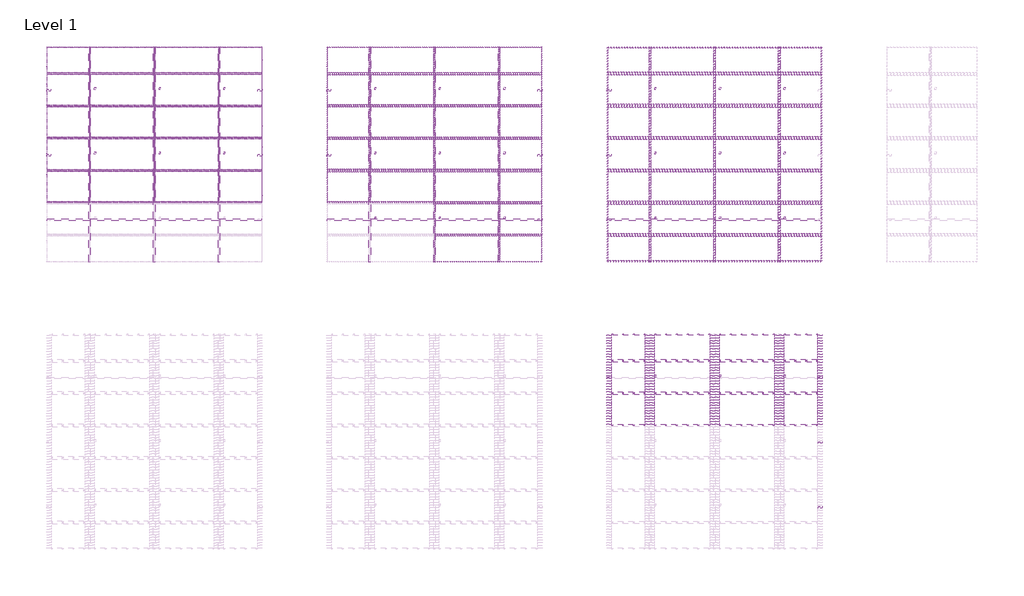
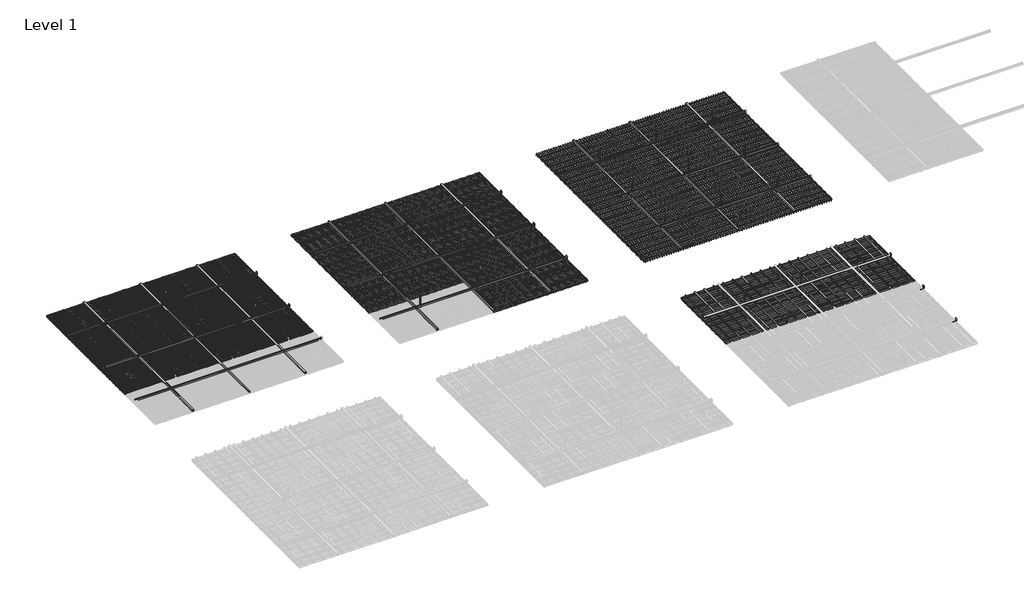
# One storey, part 28 of 32: 139 proxies.
"""IFC4 building model written with IfcOpenShell, lengths in millimetres."""

from ifc_helpers import new_model, si_unit, origin, place, context, project, spatial, transform, mapped, element, save
from components import generic_models_f4ce44e0, generic_models_ed86a27e, generic_models_dcda3682, generic_models_90ec37a6, generic_models_4fd2051e, generic_models_a47dbadd, generic_models_69343ad7, generic_models_9f873a07, generic_models_7333d896, generic_models_9e2ca137, generic_models_001e4b3a, generic_models_ea39767a, generic_models_2c5692c7, generic_models_a736a9a8, generic_models_9611325c, generic_models_1183863c, generic_models_8e35020f, generic_models_ab20c78c, generic_models_489bbaa8, generic_models_f6474ad0, generic_models_28f6a95c, generic_models_9e18e937

model = new_model("IFC4")

# Units and contexts
model_context = context("Model", 3, world=origin())
ifc_project = project(units=[si_unit("LENGTHUNIT", "METRE", prefix="MILLI")], contexts=[model_context])

# Site, building, storey
site = spatial("IfcSite", under=ifc_project)
building = spatial("IfcBuilding", under=site)
storey = spatial("IfcBuildingStorey", under=building, Name="Level 1", Elevation=0.0)

# Proxies
placement = place(None, origin())
generic_models_shape = generic_models_f4ce44e0(model_context)
element("IfcBuildingElementProxy", 1, Name="durlum_U94 : durlum_U94", ObjectType="durlum_U94 : durlum_U94", at=placement, inside=storey, context=model_context, shape_type="MappedRepresentation", body=[
    mapped(generic_models_shape, transform((35917.1423778, 9073.8007196, 3724.0), x_axis=(0.0, 1.0, 0.0), y_axis=(-1.0, 0.0, 0.0), z_axis=(0.0, 0.0, 1.0))),
])
element("IfcBuildingElementProxy", 2, Name="durlum_U94 : durlum_U94", ObjectType="durlum_U94 : durlum_U94", at=placement, inside=storey, context=model_context, shape_type="MappedRepresentation", body=[
    mapped(generic_models_shape, transform((34717.1423778, 9073.8007196, 3724.0), x_axis=(0.0, 1.0, 0.0), y_axis=(-1.0, 0.0, 0.0), z_axis=(0.0, 0.0, 1.0))),
])
element("IfcBuildingElementProxy", 3, Name="durlum_U94 : durlum_U94", ObjectType="durlum_U94 : durlum_U94", at=placement, inside=storey, context=model_context, shape_type="MappedRepresentation", body=[
    mapped(generic_models_shape, transform((37117.1423778, 9073.8007196, 3724.0), x_axis=(0.0, 1.0, 0.0), y_axis=(-1.0, 0.0, 0.0), z_axis=(0.0, 0.0, 1.0))),
])
element("IfcBuildingElementProxy", 4, Name="durlum_U94 : durlum_U94", ObjectType="durlum_U94 : durlum_U94", at=placement, inside=storey, context=model_context, shape_type="MappedRepresentation", body=[
    mapped(generic_models_shape, transform((41117.1423778, 9073.8007196, 3724.0), x_axis=(0.0, 1.0, 0.0), y_axis=(-1.0, 0.0, 0.0), z_axis=(0.0, 0.0, 1.0))),
])
element("IfcBuildingElementProxy", 5, Name="durlum_U94 : durlum_U94", ObjectType="durlum_U94 : durlum_U94", at=placement, inside=storey, context=model_context, shape_type="MappedRepresentation", body=[
    mapped(generic_models_shape, transform((39917.1423778, 9073.8007196, 3724.0), x_axis=(0.0, 1.0, 0.0), y_axis=(-1.0, 0.0, 0.0), z_axis=(0.0, 0.0, 1.0))),
])
element("IfcBuildingElementProxy", 6, Name="durlum_U94 : durlum_U94", ObjectType="durlum_U94 : durlum_U94", at=placement, inside=storey, context=model_context, shape_type="MappedRepresentation", body=[
    mapped(generic_models_shape, transform((42317.1423778, 9073.8007196, 3724.0), x_axis=(0.0, 1.0, 0.0), y_axis=(-1.0, 0.0, 0.0), z_axis=(0.0, 0.0, 1.0))),
])
element("IfcBuildingElementProxy", 7, Name="durlum_U94 : durlum_U94", ObjectType="durlum_U94 : durlum_U94", at=placement, inside=storey, context=model_context, shape_type="MappedRepresentation", body=[
    mapped(generic_models_shape, transform((46317.1423778, 9073.8007196, 3724.0), x_axis=(0.0, 1.0, 0.0), y_axis=(-1.0, 0.0, 0.0), z_axis=(0.0, 0.0, 1.0))),
])
element("IfcBuildingElementProxy", 8, Name="durlum_U94 : durlum_U94", ObjectType="durlum_U94 : durlum_U94", at=placement, inside=storey, context=model_context, shape_type="MappedRepresentation", body=[
    mapped(generic_models_shape, transform((45117.1423778, 9073.8007196, 3724.0), x_axis=(0.0, 1.0, 0.0), y_axis=(-1.0, 0.0, 0.0), z_axis=(0.0, 0.0, 1.0))),
])
element("IfcBuildingElementProxy", 9, Name="durlum_U94 : durlum_U94", ObjectType="durlum_U94 : durlum_U94", at=placement, inside=storey, context=model_context, shape_type="MappedRepresentation", body=[
    mapped(generic_models_shape, transform((47517.1423778, 9073.8007196, 3724.0), x_axis=(0.0, 1.0, 0.0), y_axis=(-1.0, 0.0, 0.0), z_axis=(0.0, 0.0, 1.0))),
])
generic_models_2_shape = generic_models_ed86a27e(model_context)
element("IfcBuildingElementProxy", 10, Name="durlum_QUADRA : durlum_QUADRA", ObjectType="durlum_QUADRA : durlum_QUADRA", at=placement, inside=storey, context=model_context, shape_type="MappedRepresentation", body=[
    mapped(generic_models_2_shape, transform((35917.1423778, 9073.8007196, 0.0), x_axis=(1.0, 0.0, 0.0), y_axis=(0.0, 1.0, 0.0), z_axis=(0.0, 0.0, 1.0))),
])
generic_models_3_shape = generic_models_dcda3682(model_context)
element("IfcBuildingElementProxy", 11, Name="durlum_QUADRA_panel : durlum_QUADRA_length_cut", ObjectType="durlum_QUADRA_panel : durlum_QUADRA_length_cut", at=placement, inside=storey, context=model_context, shape_type="MappedRepresentation", body=[
    mapped(generic_models_3_shape, transform((34316.8923778, 9673.8007196, 3700.0), x_axis=(1.0, 0.0, 0.0), y_axis=(0.0, 1.0, 0.0), z_axis=(0.0, 0.0, 1.0))),
])
element("IfcBuildingElementProxy", 12, Name="durlum_QUADRA_panel : durlum_QUADRA_length_cut", ObjectType="durlum_QUADRA_panel : durlum_QUADRA_length_cut", at=placement, inside=storey, context=model_context, shape_type="MappedRepresentation", body=[
    mapped(generic_models_3_shape, transform((34316.8923778, 9073.8007196, 3700.0), x_axis=(1.0, 0.0, 0.0), y_axis=(0.0, 1.0, 0.0), z_axis=(0.0, 0.0, 1.0))),
])
element("IfcBuildingElementProxy", 13, Name="durlum_QUADRA_panel : durlum_QUADRA_length_cut", ObjectType="durlum_QUADRA_panel : durlum_QUADRA_length_cut", at=placement, inside=storey, context=model_context, shape_type="MappedRepresentation", body=[
    mapped(generic_models_3_shape, transform((34316.8923778, 8473.8007196, 3700.0), x_axis=(1.0, 0.0, 0.0), y_axis=(0.0, 1.0, 0.0), z_axis=(0.0, 0.0, 1.0))),
])
element("IfcBuildingElementProxy", 14, Name="durlum_QUADRA_panel : durlum_QUADRA_length_cut", ObjectType="durlum_QUADRA_panel : durlum_QUADRA_length_cut", at=placement, inside=storey, context=model_context, shape_type="MappedRepresentation", body=[
    mapped(generic_models_3_shape, transform((37517.3923778, 9673.8007196, 3700.0), x_axis=(1.0, 0.0, 0.0), y_axis=(0.0, 1.0, 0.0), z_axis=(0.0, 0.0, 1.0))),
])
element("IfcBuildingElementProxy", 15, Name="durlum_QUADRA_panel : durlum_QUADRA_length_cut", ObjectType="durlum_QUADRA_panel : durlum_QUADRA_length_cut", at=placement, inside=storey, context=model_context, shape_type="MappedRepresentation", body=[
    mapped(generic_models_3_shape, transform((37517.3923778, 9073.8007196, 3700.0), x_axis=(1.0, 0.0, 0.0), y_axis=(0.0, 1.0, 0.0), z_axis=(0.0, 0.0, 1.0))),
])
element("IfcBuildingElementProxy", 16, Name="durlum_QUADRA_panel : durlum_QUADRA_length_cut", ObjectType="durlum_QUADRA_panel : durlum_QUADRA_length_cut", at=placement, inside=storey, context=model_context, shape_type="MappedRepresentation", body=[
    mapped(generic_models_3_shape, transform((37517.3923778, 8473.8007196, 3700.0), x_axis=(1.0, 0.0, 0.0), y_axis=(0.0, 1.0, 0.0), z_axis=(0.0, 0.0, 1.0))),
])
element("IfcBuildingElementProxy", 17, Name="durlum_QUADRA_panel : durlum_QUADRA_length_cut", ObjectType="durlum_QUADRA_panel : durlum_QUADRA_length_cut", at=placement, inside=storey, context=model_context, shape_type="MappedRepresentation", body=[
    mapped(generic_models_3_shape, transform((37517.3923778, 10273.8007196, 3700.0), x_axis=(1.0, 0.0, 0.0), y_axis=(0.0, 1.0, 0.0), z_axis=(0.0, 0.0, 1.0))),
])
element("IfcBuildingElementProxy", 18, Name="durlum_QUADRA_panel : durlum_QUADRA_length_cut", ObjectType="durlum_QUADRA_panel : durlum_QUADRA_length_cut", at=placement, inside=storey, context=model_context, shape_type="MappedRepresentation", body=[
    mapped(generic_models_3_shape, transform((34316.8923778, 10273.8007196, 3700.0), x_axis=(1.0, 0.0, 0.0), y_axis=(0.0, 1.0, 0.0), z_axis=(0.0, 0.0, 1.0))),
])
generic_models_4_shape = generic_models_90ec37a6(model_context)
element("IfcBuildingElementProxy", 19, Name="durlum_QUADRA_panel : durlum_QUADRA_width_cut", ObjectType="durlum_QUADRA_panel : durlum_QUADRA_width_cut", at=placement, inside=storey, context=model_context, shape_type="MappedRepresentation", body=[
    mapped(generic_models_4_shape, transform((35317.1423778, 10823.8007196, 3700.0), x_axis=(1.0, 0.0, 0.0), y_axis=(0.0, 1.0, 0.0), z_axis=(0.0, 0.0, 1.0))),
])
element("IfcBuildingElementProxy", 20, Name="durlum_QUADRA_panel : durlum_QUADRA_width_cut", ObjectType="durlum_QUADRA_panel : durlum_QUADRA_width_cut", at=placement, inside=storey, context=model_context, shape_type="MappedRepresentation", body=[
    mapped(generic_models_4_shape, transform((36517.1423778, 10823.8007196, 3700.0), x_axis=(1.0, 0.0, 0.0), y_axis=(0.0, 1.0, 0.0), z_axis=(0.0, 0.0, 1.0))),
])
generic_models_5_shape = generic_models_4fd2051e(model_context)
element("IfcBuildingElementProxy", 21, Name="durlum_QUADRA_panel : durlum_QUADRA", ObjectType="durlum_QUADRA_panel : durlum_QUADRA", at=placement, inside=storey, context=model_context, shape_type="MappedRepresentation", body=[
    mapped(generic_models_5_shape, transform((35317.1423778, 8473.8007196, 3700.0), x_axis=(1.0, 0.0, 0.0), y_axis=(0.0, 1.0, 0.0), z_axis=(0.0, 0.0, 1.0))),
])
element("IfcBuildingElementProxy", 22, Name="durlum_QUADRA_panel : durlum_QUADRA", ObjectType="durlum_QUADRA_panel : durlum_QUADRA", at=placement, inside=storey, context=model_context, shape_type="MappedRepresentation", body=[
    mapped(generic_models_5_shape, transform((36517.1423778, 8473.8007196, 3700.0), x_axis=(1.0, 0.0, 0.0), y_axis=(0.0, 1.0, 0.0), z_axis=(0.0, 0.0, 1.0))),
])
element("IfcBuildingElementProxy", 23, Name="durlum_QUADRA_panel : durlum_QUADRA", ObjectType="durlum_QUADRA_panel : durlum_QUADRA", at=placement, inside=storey, context=model_context, shape_type="MappedRepresentation", body=[
    mapped(generic_models_5_shape, transform((35317.1423778, 9073.8007196, 3700.0), x_axis=(1.0, 0.0, 0.0), y_axis=(0.0, 1.0, 0.0), z_axis=(0.0, 0.0, 1.0))),
])
element("IfcBuildingElementProxy", 24, Name="durlum_QUADRA_panel : durlum_QUADRA", ObjectType="durlum_QUADRA_panel : durlum_QUADRA", at=placement, inside=storey, context=model_context, shape_type="MappedRepresentation", body=[
    mapped(generic_models_5_shape, transform((36517.1423778, 9073.8007196, 3700.0), x_axis=(1.0, 0.0, 0.0), y_axis=(0.0, 1.0, 0.0), z_axis=(0.0, 0.0, 1.0))),
])
element("IfcBuildingElementProxy", 25, Name="durlum_QUADRA_panel : durlum_QUADRA", ObjectType="durlum_QUADRA_panel : durlum_QUADRA", at=placement, inside=storey, context=model_context, shape_type="MappedRepresentation", body=[
    mapped(generic_models_5_shape, transform((35317.1423778, 9673.8007196, 3700.0), x_axis=(1.0, 0.0, 0.0), y_axis=(0.0, 1.0, 0.0), z_axis=(0.0, 0.0, 1.0))),
])
element("IfcBuildingElementProxy", 26, Name="durlum_QUADRA_panel : durlum_QUADRA", ObjectType="durlum_QUADRA_panel : durlum_QUADRA", at=placement, inside=storey, context=model_context, shape_type="MappedRepresentation", body=[
    mapped(generic_models_5_shape, transform((36517.1423778, 9673.8007196, 3700.0), x_axis=(1.0, 0.0, 0.0), y_axis=(0.0, 1.0, 0.0), z_axis=(0.0, 0.0, 1.0))),
])
element("IfcBuildingElementProxy", 27, Name="durlum_QUADRA_panel : durlum_QUADRA", ObjectType="durlum_QUADRA_panel : durlum_QUADRA", at=placement, inside=storey, context=model_context, shape_type="MappedRepresentation", body=[
    mapped(generic_models_5_shape, transform((35317.1423778, 10273.8007196, 3700.0), x_axis=(1.0, 0.0, 0.0), y_axis=(0.0, 1.0, 0.0), z_axis=(0.0, 0.0, 1.0))),
])
element("IfcBuildingElementProxy", 28, Name="durlum_QUADRA_panel : durlum_QUADRA", ObjectType="durlum_QUADRA_panel : durlum_QUADRA", at=placement, inside=storey, context=model_context, shape_type="MappedRepresentation", body=[
    mapped(generic_models_5_shape, transform((36517.1423778, 10273.8007196, 3700.0), x_axis=(1.0, 0.0, 0.0), y_axis=(0.0, 1.0, 0.0), z_axis=(0.0, 0.0, 1.0))),
])
generic_models_6_shape = generic_models_a47dbadd(model_context)
element("IfcBuildingElementProxy", 29, Name="durlum_QUADRA_panel : durlum_QUADRA_corner_cut", ObjectType="durlum_QUADRA_panel : durlum_QUADRA_corner_cut", at=placement, inside=storey, context=model_context, shape_type="MappedRepresentation", body=[
    mapped(generic_models_6_shape, transform((37517.3923778, 10823.8007196, 3700.0), x_axis=(1.0, 0.0, 0.0), y_axis=(0.0, 1.0, 0.0), z_axis=(0.0, 0.0, 1.0))),
])
element("IfcBuildingElementProxy", 30, Name="durlum_QUADRA_panel : durlum_QUADRA_corner_cut", ObjectType="durlum_QUADRA_panel : durlum_QUADRA_corner_cut", at=placement, inside=storey, context=model_context, shape_type="MappedRepresentation", body=[
    mapped(generic_models_6_shape, transform((34316.8923778, 10823.8007196, 3700.0), x_axis=(1.0, 0.0, 0.0), y_axis=(0.0, 1.0, 0.0), z_axis=(0.0, 0.0, 1.0))),
])
generic_models_7_shape = generic_models_69343ad7(model_context)
element("IfcBuildingElementProxy", 31, Name="durlum_STARLAM_panel : durlum_STARLAM_15", ObjectType="durlum_STARLAM_panel : durlum_STARLAM_15", at=placement, inside=storey, context=model_context, shape_type="MappedRepresentation", body=[
    mapped(generic_models_7_shape, transform((45717.1423778, 4338.9976834, 3700.0), x_axis=(1.0, 0.0, 0.0), y_axis=(0.0, 1.0, 0.0), z_axis=(0.0, 0.0, 1.0))),
])
element("IfcBuildingElementProxy", 32, Name="durlum_STARLAM_panel : durlum_STARLAM_15", ObjectType="durlum_STARLAM_panel : durlum_STARLAM_15", at=placement, inside=storey, context=model_context, shape_type="MappedRepresentation", body=[
    mapped(generic_models_7_shape, transform((46917.1423778, 4338.9976834, 3700.0), x_axis=(1.0, 0.0, 0.0), y_axis=(0.0, 1.0, 0.0), z_axis=(0.0, 0.0, 1.0))),
])
element("IfcBuildingElementProxy", 33, Name="durlum_STARLAM_panel : durlum_STARLAM_15", ObjectType="durlum_STARLAM_panel : durlum_STARLAM_15", at=placement, inside=storey, context=model_context, shape_type="MappedRepresentation", body=[
    mapped(generic_models_7_shape, transform((45717.1423778, 4938.9976834, 3700.0), x_axis=(1.0, 0.0, 0.0), y_axis=(0.0, 1.0, 0.0), z_axis=(0.0, 0.0, 1.0))),
])
element("IfcBuildingElementProxy", 34, Name="durlum_STARLAM_panel : durlum_STARLAM_15", ObjectType="durlum_STARLAM_panel : durlum_STARLAM_15", at=placement, inside=storey, context=model_context, shape_type="MappedRepresentation", body=[
    mapped(generic_models_7_shape, transform((46917.1423778, 4938.9976834, 3700.0), x_axis=(1.0, 0.0, 0.0), y_axis=(0.0, 1.0, 0.0), z_axis=(0.0, 0.0, 1.0))),
])
generic_models_8_shape = generic_models_9f873a07(model_context)
element("IfcBuildingElementProxy", 35, Name="durlum_STARLAM_panel : durlum_STARLAM_15_length_cut", ObjectType="durlum_STARLAM_panel : durlum_STARLAM_15_length_cut", at=placement, inside=storey, context=model_context, shape_type="MappedRepresentation", body=[
    mapped(generic_models_8_shape, transform((47917.2673778, 4338.9976834, 3700.0), x_axis=(1.0, 0.0, 0.0), y_axis=(0.0, 1.0, 0.0), z_axis=(0.0, 0.0, 1.0))),
])
element("IfcBuildingElementProxy", 36, Name="durlum_STARLAM_panel : durlum_STARLAM_15_length_cut", ObjectType="durlum_STARLAM_panel : durlum_STARLAM_15_length_cut", at=placement, inside=storey, context=model_context, shape_type="MappedRepresentation", body=[
    mapped(generic_models_8_shape, transform((44717.0173778, 4338.9976834, 3700.0), x_axis=(1.0, 0.0, 0.0), y_axis=(0.0, 1.0, 0.0), z_axis=(0.0, 0.0, 1.0))),
])
element("IfcBuildingElementProxy", 37, Name="durlum_STARLAM_panel : durlum_STARLAM_15_length_cut", ObjectType="durlum_STARLAM_panel : durlum_STARLAM_15_length_cut", at=placement, inside=storey, context=model_context, shape_type="MappedRepresentation", body=[
    mapped(generic_models_8_shape, transform((44717.0173778, 4938.9976834, 3700.0), x_axis=(1.0, 0.0, 0.0), y_axis=(0.0, 1.0, 0.0), z_axis=(0.0, 0.0, 1.0))),
])
element("IfcBuildingElementProxy", 38, Name="durlum_STARLAM_panel : durlum_STARLAM_15_length_cut", ObjectType="durlum_STARLAM_panel : durlum_STARLAM_15_length_cut", at=placement, inside=storey, context=model_context, shape_type="MappedRepresentation", body=[
    mapped(generic_models_8_shape, transform((47917.2673778, 4938.9976834, 3700.0), x_axis=(1.0, 0.0, 0.0), y_axis=(0.0, 1.0, 0.0), z_axis=(0.0, 0.0, 1.0))),
])
generic_models_9_shape = generic_models_7333d896(model_context)
element("IfcBuildingElementProxy", 39, Name="durlum_STARLAM_panel : durlum_STARLAM_15_width_cut", ObjectType="durlum_STARLAM_panel : durlum_STARLAM_15_width_cut", at=placement, inside=storey, context=model_context, shape_type="MappedRepresentation", body=[
    mapped(generic_models_9_shape, transform((45717.1423778, 5488.9976834, 3700.0), x_axis=(1.0, 0.0, 0.0), y_axis=(0.0, 1.0, 0.0), z_axis=(0.0, 0.0, 1.0))),
])
element("IfcBuildingElementProxy", 40, Name="durlum_STARLAM_panel : durlum_STARLAM_15_width_cut", ObjectType="durlum_STARLAM_panel : durlum_STARLAM_15_width_cut", at=placement, inside=storey, context=model_context, shape_type="MappedRepresentation", body=[
    mapped(generic_models_9_shape, transform((46917.1423778, 5488.9976834, 3700.0), x_axis=(1.0, 0.0, 0.0), y_axis=(0.0, 1.0, 0.0), z_axis=(0.0, 0.0, 1.0))),
])
generic_models_10_shape = generic_models_9e2ca137(model_context)
element("IfcBuildingElementProxy", 41, Name="durlum_STARLAM_panel : durlum_STARLAM_15_corner_cut", ObjectType="durlum_STARLAM_panel : durlum_STARLAM_15_corner_cut", at=placement, inside=storey, context=model_context, shape_type="MappedRepresentation", body=[
    mapped(generic_models_10_shape, transform((47917.2673778, 5488.9976834, 3700.0), x_axis=(1.0, 0.0, 0.0), y_axis=(0.0, 1.0, 0.0), z_axis=(0.0, 0.0, 1.0))),
])
element("IfcBuildingElementProxy", 42, Name="durlum_STARLAM_panel : durlum_STARLAM_15_corner_cut", ObjectType="durlum_STARLAM_panel : durlum_STARLAM_15_corner_cut", at=placement, inside=storey, context=model_context, shape_type="MappedRepresentation", body=[
    mapped(generic_models_10_shape, transform((44717.0173778, 5488.9976834, 3700.0), x_axis=(1.0, 0.0, 0.0), y_axis=(0.0, 1.0, 0.0), z_axis=(0.0, 0.0, 1.0))),
])
element("IfcBuildingElementProxy", 43, Name="durlum_QUADRA : durlum_QUADRA", ObjectType="durlum_QUADRA : durlum_QUADRA", at=placement, inside=storey, context=model_context, shape_type="MappedRepresentation", body=[
    mapped(generic_models_2_shape, transform((41117.1423778, 9073.8007196, 0.0), x_axis=(1.0, 0.0, 0.0), y_axis=(0.0, 1.0, 0.0), z_axis=(0.0, 0.0, 1.0))),
])
generic_models_11_shape = generic_models_001e4b3a(model_context)
element("IfcBuildingElementProxy", 44, Name="durlum_QUADRA_panel : durlum_QUADRA_length_cut", ObjectType="durlum_QUADRA_panel : durlum_QUADRA_length_cut", at=placement, inside=storey, context=model_context, shape_type="MappedRepresentation", body=[
    mapped(generic_models_11_shape, transform((39516.8923778, 9673.8007196, 3700.0), x_axis=(1.0, 0.0, 0.0), y_axis=(0.0, 1.0, 0.0), z_axis=(0.0, 0.0, 1.0))),
])
element("IfcBuildingElementProxy", 45, Name="durlum_QUADRA_panel : durlum_QUADRA_length_cut", ObjectType="durlum_QUADRA_panel : durlum_QUADRA_length_cut", at=placement, inside=storey, context=model_context, shape_type="MappedRepresentation", body=[
    mapped(generic_models_11_shape, transform((39516.8923778, 9073.8007196, 3700.0), x_axis=(1.0, 0.0, 0.0), y_axis=(0.0, 1.0, 0.0), z_axis=(0.0, 0.0, 1.0))),
])
element("IfcBuildingElementProxy", 46, Name="durlum_QUADRA_panel : durlum_QUADRA_length_cut", ObjectType="durlum_QUADRA_panel : durlum_QUADRA_length_cut", at=placement, inside=storey, context=model_context, shape_type="MappedRepresentation", body=[
    mapped(generic_models_11_shape, transform((39516.8923778, 8473.8007196, 3700.0), x_axis=(1.0, 0.0, 0.0), y_axis=(0.0, 1.0, 0.0), z_axis=(0.0, 0.0, 1.0))),
])
element("IfcBuildingElementProxy", 47, Name="durlum_QUADRA_panel : durlum_QUADRA_length_cut", ObjectType="durlum_QUADRA_panel : durlum_QUADRA_length_cut", at=placement, inside=storey, context=model_context, shape_type="MappedRepresentation", body=[
    mapped(generic_models_11_shape, transform((42717.3923778, 9673.8007196, 3700.0), x_axis=(1.0, 0.0, 0.0), y_axis=(0.0, 1.0, 0.0), z_axis=(0.0, 0.0, 1.0))),
])
element("IfcBuildingElementProxy", 48, Name="durlum_QUADRA_panel : durlum_QUADRA_length_cut", ObjectType="durlum_QUADRA_panel : durlum_QUADRA_length_cut", at=placement, inside=storey, context=model_context, shape_type="MappedRepresentation", body=[
    mapped(generic_models_11_shape, transform((42717.3923778, 9073.8007196, 3700.0), x_axis=(1.0, 0.0, 0.0), y_axis=(0.0, 1.0, 0.0), z_axis=(0.0, 0.0, 1.0))),
])
element("IfcBuildingElementProxy", 49, Name="durlum_QUADRA_panel : durlum_QUADRA_length_cut", ObjectType="durlum_QUADRA_panel : durlum_QUADRA_length_cut", at=placement, inside=storey, context=model_context, shape_type="MappedRepresentation", body=[
    mapped(generic_models_11_shape, transform((42717.3923778, 8473.8007196, 3700.0), x_axis=(1.0, 0.0, 0.0), y_axis=(0.0, 1.0, 0.0), z_axis=(0.0, 0.0, 1.0))),
])
element("IfcBuildingElementProxy", 50, Name="durlum_QUADRA_panel : durlum_QUADRA_length_cut", ObjectType="durlum_QUADRA_panel : durlum_QUADRA_length_cut", at=placement, inside=storey, context=model_context, shape_type="MappedRepresentation", body=[
    mapped(generic_models_11_shape, transform((42717.3923778, 10273.8007196, 3700.0), x_axis=(1.0, 0.0, 0.0), y_axis=(0.0, 1.0, 0.0), z_axis=(0.0, 0.0, 1.0))),
])
element("IfcBuildingElementProxy", 51, Name="durlum_QUADRA_panel : durlum_QUADRA_length_cut", ObjectType="durlum_QUADRA_panel : durlum_QUADRA_length_cut", at=placement, inside=storey, context=model_context, shape_type="MappedRepresentation", body=[
    mapped(generic_models_11_shape, transform((39516.8923778, 10273.8007196, 3700.0), x_axis=(1.0, 0.0, 0.0), y_axis=(0.0, 1.0, 0.0), z_axis=(0.0, 0.0, 1.0))),
])
element("IfcBuildingElementProxy", 52, Name="durlum_QUADRA_panel : durlum_QUADRA_length_cut", ObjectType="durlum_QUADRA_panel : durlum_QUADRA_length_cut", at=placement, inside=storey, context=model_context, shape_type="MappedRepresentation", body=[
    mapped(generic_models_11_shape, transform((42717.3923778, 7873.8007196, 3700.0), x_axis=(1.0, 0.0, 0.0), y_axis=(0.0, 1.0, 0.0), z_axis=(0.0, 0.0, 1.0))),
])
generic_models_12_shape = generic_models_ea39767a(model_context)
element("IfcBuildingElementProxy", 53, Name="durlum_QUADRA_panel : durlum_QUADRA_width_cut", ObjectType="durlum_QUADRA_panel : durlum_QUADRA_width_cut", at=placement, inside=storey, context=model_context, shape_type="MappedRepresentation", body=[
    mapped(generic_models_12_shape, transform((40517.1423778, 10823.8007196, 3700.0), x_axis=(1.0, 0.0, 0.0), y_axis=(0.0, 1.0, 0.0), z_axis=(0.0, 0.0, 1.0))),
])
element("IfcBuildingElementProxy", 54, Name="durlum_QUADRA_panel : durlum_QUADRA_width_cut", ObjectType="durlum_QUADRA_panel : durlum_QUADRA_width_cut", at=placement, inside=storey, context=model_context, shape_type="MappedRepresentation", body=[
    mapped(generic_models_12_shape, transform((41717.1423778, 7323.8007196, 3700.0), x_axis=(1.0, 0.0, 0.0), y_axis=(0.0, 1.0, 0.0), z_axis=(0.0, 0.0, 1.0))),
])
element("IfcBuildingElementProxy", 55, Name="durlum_QUADRA_panel : durlum_QUADRA_width_cut", ObjectType="durlum_QUADRA_panel : durlum_QUADRA_width_cut", at=placement, inside=storey, context=model_context, shape_type="MappedRepresentation", body=[
    mapped(generic_models_12_shape, transform((41717.1423778, 10823.8007196, 3700.0), x_axis=(1.0, 0.0, 0.0), y_axis=(0.0, 1.0, 0.0), z_axis=(0.0, 0.0, 1.0))),
])
generic_models_13_shape = generic_models_2c5692c7(model_context)
element("IfcBuildingElementProxy", 56, Name="durlum_QUADRA_panel : durlum_QUADRA", ObjectType="durlum_QUADRA_panel : durlum_QUADRA", at=placement, inside=storey, context=model_context, shape_type="MappedRepresentation", body=[
    mapped(generic_models_13_shape, transform((40517.1423778, 8473.8007196, 3700.0), x_axis=(1.0, 0.0, 0.0), y_axis=(0.0, 1.0, 0.0), z_axis=(0.0, 0.0, 1.0))),
])
element("IfcBuildingElementProxy", 57, Name="durlum_QUADRA_panel : durlum_QUADRA", ObjectType="durlum_QUADRA_panel : durlum_QUADRA", at=placement, inside=storey, context=model_context, shape_type="MappedRepresentation", body=[
    mapped(generic_models_13_shape, transform((41717.1423778, 8473.8007196, 3700.0), x_axis=(1.0, 0.0, 0.0), y_axis=(0.0, 1.0, 0.0), z_axis=(0.0, 0.0, 1.0))),
])
element("IfcBuildingElementProxy", 58, Name="durlum_QUADRA_panel : durlum_QUADRA", ObjectType="durlum_QUADRA_panel : durlum_QUADRA", at=placement, inside=storey, context=model_context, shape_type="MappedRepresentation", body=[
    mapped(generic_models_13_shape, transform((40517.1423778, 9073.8007196, 3700.0), x_axis=(1.0, 0.0, 0.0), y_axis=(0.0, 1.0, 0.0), z_axis=(0.0, 0.0, 1.0))),
])
element("IfcBuildingElementProxy", 59, Name="durlum_QUADRA_panel : durlum_QUADRA", ObjectType="durlum_QUADRA_panel : durlum_QUADRA", at=placement, inside=storey, context=model_context, shape_type="MappedRepresentation", body=[
    mapped(generic_models_13_shape, transform((41717.1423778, 9073.8007196, 3700.0), x_axis=(1.0, 0.0, 0.0), y_axis=(0.0, 1.0, 0.0), z_axis=(0.0, 0.0, 1.0))),
])
element("IfcBuildingElementProxy", 60, Name="durlum_QUADRA_panel : durlum_QUADRA", ObjectType="durlum_QUADRA_panel : durlum_QUADRA", at=placement, inside=storey, context=model_context, shape_type="MappedRepresentation", body=[
    mapped(generic_models_13_shape, transform((40517.1423778, 9673.8007196, 3700.0), x_axis=(1.0, 0.0, 0.0), y_axis=(0.0, 1.0, 0.0), z_axis=(0.0, 0.0, 1.0))),
])
element("IfcBuildingElementProxy", 61, Name="durlum_QUADRA_panel : durlum_QUADRA", ObjectType="durlum_QUADRA_panel : durlum_QUADRA", at=placement, inside=storey, context=model_context, shape_type="MappedRepresentation", body=[
    mapped(generic_models_13_shape, transform((41717.1423778, 9673.8007196, 3700.0), x_axis=(1.0, 0.0, 0.0), y_axis=(0.0, 1.0, 0.0), z_axis=(0.0, 0.0, 1.0))),
])
element("IfcBuildingElementProxy", 62, Name="durlum_QUADRA_panel : durlum_QUADRA", ObjectType="durlum_QUADRA_panel : durlum_QUADRA", at=placement, inside=storey, context=model_context, shape_type="MappedRepresentation", body=[
    mapped(generic_models_13_shape, transform((41717.1423778, 7873.8007196, 3700.0), x_axis=(1.0, 0.0, 0.0), y_axis=(0.0, 1.0, 0.0), z_axis=(0.0, 0.0, 1.0))),
])
element("IfcBuildingElementProxy", 63, Name="durlum_QUADRA_panel : durlum_QUADRA", ObjectType="durlum_QUADRA_panel : durlum_QUADRA", at=placement, inside=storey, context=model_context, shape_type="MappedRepresentation", body=[
    mapped(generic_models_13_shape, transform((40517.1423778, 10273.8007196, 3700.0), x_axis=(1.0, 0.0, 0.0), y_axis=(0.0, 1.0, 0.0), z_axis=(0.0, 0.0, 1.0))),
])
element("IfcBuildingElementProxy", 64, Name="durlum_QUADRA_panel : durlum_QUADRA", ObjectType="durlum_QUADRA_panel : durlum_QUADRA", at=placement, inside=storey, context=model_context, shape_type="MappedRepresentation", body=[
    mapped(generic_models_13_shape, transform((41717.1423778, 10273.8007196, 3700.0), x_axis=(1.0, 0.0, 0.0), y_axis=(0.0, 1.0, 0.0), z_axis=(0.0, 0.0, 1.0))),
])
generic_models_14_shape = generic_models_a736a9a8(model_context)
element("IfcBuildingElementProxy", 65, Name="durlum_QUADRA_panel : durlum_QUADRA_corner_cut", ObjectType="durlum_QUADRA_panel : durlum_QUADRA_corner_cut", at=placement, inside=storey, context=model_context, shape_type="MappedRepresentation", body=[
    mapped(generic_models_14_shape, transform((42717.3923778, 10823.8007196, 3700.0), x_axis=(1.0, 0.0, 0.0), y_axis=(0.0, 1.0, 0.0), z_axis=(0.0, 0.0, 1.0))),
])
element("IfcBuildingElementProxy", 66, Name="durlum_QUADRA_panel : durlum_QUADRA_corner_cut", ObjectType="durlum_QUADRA_panel : durlum_QUADRA_corner_cut", at=placement, inside=storey, context=model_context, shape_type="MappedRepresentation", body=[
    mapped(generic_models_14_shape, transform((39516.8923778, 10823.8007196, 3700.0), x_axis=(1.0, 0.0, 0.0), y_axis=(0.0, 1.0, 0.0), z_axis=(0.0, 0.0, 1.0))),
])
element("IfcBuildingElementProxy", 67, Name="durlum_QUADRA_panel : durlum_QUADRA_corner_cut", ObjectType="durlum_QUADRA_panel : durlum_QUADRA_corner_cut", at=placement, inside=storey, context=model_context, shape_type="MappedRepresentation", body=[
    mapped(generic_models_14_shape, transform((42717.3923778, 7323.8007196, 3700.0), x_axis=(1.0, 0.0, 0.0), y_axis=(0.0, 1.0, 0.0), z_axis=(0.0, 0.0, 1.0))),
])
element("IfcBuildingElementProxy", 68, Name="durlum_QUADRA : durlum_QUADRA", ObjectType="durlum_QUADRA : durlum_QUADRA", at=placement, inside=storey, context=model_context, shape_type="MappedRepresentation", body=[
    mapped(generic_models_2_shape, transform((46317.1423778, 9073.8007196, 0.0), x_axis=(1.0, 0.0, 0.0), y_axis=(0.0, 1.0, 0.0), z_axis=(0.0, 0.0, 1.0))),
])
generic_models_15_shape = generic_models_9611325c(model_context)
element("IfcBuildingElementProxy", 69, Name="durlum_QUADRA_panel : durlum_QUADRA_length_cut", ObjectType="durlum_QUADRA_panel : durlum_QUADRA_length_cut", at=placement, inside=storey, context=model_context, shape_type="MappedRepresentation", body=[
    mapped(generic_models_15_shape, transform((44716.8923778, 9673.8007196, 3700.0), x_axis=(1.0, 0.0, 0.0), y_axis=(0.0, 1.0, 0.0), z_axis=(0.0, 0.0, 1.0))),
])
element("IfcBuildingElementProxy", 70, Name="durlum_QUADRA_panel : durlum_QUADRA_length_cut", ObjectType="durlum_QUADRA_panel : durlum_QUADRA_length_cut", at=placement, inside=storey, context=model_context, shape_type="MappedRepresentation", body=[
    mapped(generic_models_15_shape, transform((44716.8923778, 9073.8007196, 3700.0), x_axis=(1.0, 0.0, 0.0), y_axis=(0.0, 1.0, 0.0), z_axis=(0.0, 0.0, 1.0))),
])
element("IfcBuildingElementProxy", 71, Name="durlum_QUADRA_panel : durlum_QUADRA_length_cut", ObjectType="durlum_QUADRA_panel : durlum_QUADRA_length_cut", at=placement, inside=storey, context=model_context, shape_type="MappedRepresentation", body=[
    mapped(generic_models_15_shape, transform((44716.8923778, 8473.8007196, 3700.0), x_axis=(1.0, 0.0, 0.0), y_axis=(0.0, 1.0, 0.0), z_axis=(0.0, 0.0, 1.0))),
])
element("IfcBuildingElementProxy", 72, Name="durlum_QUADRA_panel : durlum_QUADRA_length_cut", ObjectType="durlum_QUADRA_panel : durlum_QUADRA_length_cut", at=placement, inside=storey, context=model_context, shape_type="MappedRepresentation", body=[
    mapped(generic_models_15_shape, transform((47917.3923778, 9673.8007196, 3700.0), x_axis=(1.0, 0.0, 0.0), y_axis=(0.0, 1.0, 0.0), z_axis=(0.0, 0.0, 1.0))),
])
element("IfcBuildingElementProxy", 73, Name="durlum_QUADRA_panel : durlum_QUADRA_length_cut", ObjectType="durlum_QUADRA_panel : durlum_QUADRA_length_cut", at=placement, inside=storey, context=model_context, shape_type="MappedRepresentation", body=[
    mapped(generic_models_15_shape, transform((47917.3923778, 9073.8007196, 3700.0), x_axis=(1.0, 0.0, 0.0), y_axis=(0.0, 1.0, 0.0), z_axis=(0.0, 0.0, 1.0))),
])
element("IfcBuildingElementProxy", 74, Name="durlum_QUADRA_panel : durlum_QUADRA_length_cut", ObjectType="durlum_QUADRA_panel : durlum_QUADRA_length_cut", at=placement, inside=storey, context=model_context, shape_type="MappedRepresentation", body=[
    mapped(generic_models_15_shape, transform((47917.3923778, 8473.8007196, 3700.0), x_axis=(1.0, 0.0, 0.0), y_axis=(0.0, 1.0, 0.0), z_axis=(0.0, 0.0, 1.0))),
])
element("IfcBuildingElementProxy", 75, Name="durlum_QUADRA_panel : durlum_QUADRA_length_cut", ObjectType="durlum_QUADRA_panel : durlum_QUADRA_length_cut", at=placement, inside=storey, context=model_context, shape_type="MappedRepresentation", body=[
    mapped(generic_models_15_shape, transform((47917.3923778, 10273.8007196, 3700.0), x_axis=(1.0, 0.0, 0.0), y_axis=(0.0, 1.0, 0.0), z_axis=(0.0, 0.0, 1.0))),
])
element("IfcBuildingElementProxy", 76, Name="durlum_QUADRA_panel : durlum_QUADRA_length_cut", ObjectType="durlum_QUADRA_panel : durlum_QUADRA_length_cut", at=placement, inside=storey, context=model_context, shape_type="MappedRepresentation", body=[
    mapped(generic_models_15_shape, transform((44716.8923778, 10273.8007196, 3700.0), x_axis=(1.0, 0.0, 0.0), y_axis=(0.0, 1.0, 0.0), z_axis=(0.0, 0.0, 1.0))),
])
element("IfcBuildingElementProxy", 77, Name="durlum_QUADRA_panel : durlum_QUADRA_length_cut", ObjectType="durlum_QUADRA_panel : durlum_QUADRA_length_cut", at=placement, inside=storey, context=model_context, shape_type="MappedRepresentation", body=[
    mapped(generic_models_15_shape, transform((44716.8923778, 7873.8007196, 3700.0), x_axis=(1.0, 0.0, 0.0), y_axis=(0.0, 1.0, 0.0), z_axis=(0.0, 0.0, 1.0))),
])
element("IfcBuildingElementProxy", 78, Name="durlum_QUADRA_panel : durlum_QUADRA_length_cut", ObjectType="durlum_QUADRA_panel : durlum_QUADRA_length_cut", at=placement, inside=storey, context=model_context, shape_type="MappedRepresentation", body=[
    mapped(generic_models_15_shape, transform((47917.3923778, 7873.8007196, 3700.0), x_axis=(1.0, 0.0, 0.0), y_axis=(0.0, 1.0, 0.0), z_axis=(0.0, 0.0, 1.0))),
])
generic_models_16_shape = generic_models_1183863c(model_context)
element("IfcBuildingElementProxy", 79, Name="durlum_QUADRA_panel : durlum_QUADRA_width_cut", ObjectType="durlum_QUADRA_panel : durlum_QUADRA_width_cut", at=placement, inside=storey, context=model_context, shape_type="MappedRepresentation", body=[
    mapped(generic_models_16_shape, transform((45717.1423778, 7323.8007196, 3700.0), x_axis=(1.0, 0.0, 0.0), y_axis=(0.0, 1.0, 0.0), z_axis=(0.0, 0.0, 1.0))),
])
element("IfcBuildingElementProxy", 80, Name="durlum_QUADRA_panel : durlum_QUADRA_width_cut", ObjectType="durlum_QUADRA_panel : durlum_QUADRA_width_cut", at=placement, inside=storey, context=model_context, shape_type="MappedRepresentation", body=[
    mapped(generic_models_16_shape, transform((45717.1423778, 10823.8007196, 3700.0), x_axis=(1.0, 0.0, 0.0), y_axis=(0.0, 1.0, 0.0), z_axis=(0.0, 0.0, 1.0))),
])
element("IfcBuildingElementProxy", 81, Name="durlum_QUADRA_panel : durlum_QUADRA_width_cut", ObjectType="durlum_QUADRA_panel : durlum_QUADRA_width_cut", at=placement, inside=storey, context=model_context, shape_type="MappedRepresentation", body=[
    mapped(generic_models_16_shape, transform((46917.1423778, 7323.8007196, 3700.0), x_axis=(1.0, 0.0, 0.0), y_axis=(0.0, 1.0, 0.0), z_axis=(0.0, 0.0, 1.0))),
])
element("IfcBuildingElementProxy", 82, Name="durlum_QUADRA_panel : durlum_QUADRA_width_cut", ObjectType="durlum_QUADRA_panel : durlum_QUADRA_width_cut", at=placement, inside=storey, context=model_context, shape_type="MappedRepresentation", body=[
    mapped(generic_models_16_shape, transform((46917.1423778, 10823.8007196, 3700.0), x_axis=(1.0, 0.0, 0.0), y_axis=(0.0, 1.0, 0.0), z_axis=(0.0, 0.0, 1.0))),
])
generic_models_17_shape = generic_models_8e35020f(model_context)
element("IfcBuildingElementProxy", 83, Name="durlum_QUADRA_panel : durlum_QUADRA", ObjectType="durlum_QUADRA_panel : durlum_QUADRA", at=placement, inside=storey, context=model_context, shape_type="MappedRepresentation", body=[
    mapped(generic_models_17_shape, transform((45717.1423778, 8473.8007196, 3700.0), x_axis=(1.0, 0.0, 0.0), y_axis=(0.0, 1.0, 0.0), z_axis=(0.0, 0.0, 1.0))),
])
element("IfcBuildingElementProxy", 84, Name="durlum_QUADRA_panel : durlum_QUADRA", ObjectType="durlum_QUADRA_panel : durlum_QUADRA", at=placement, inside=storey, context=model_context, shape_type="MappedRepresentation", body=[
    mapped(generic_models_17_shape, transform((46917.1423778, 8473.8007196, 3700.0), x_axis=(1.0, 0.0, 0.0), y_axis=(0.0, 1.0, 0.0), z_axis=(0.0, 0.0, 1.0))),
])
element("IfcBuildingElementProxy", 85, Name="durlum_QUADRA_panel : durlum_QUADRA", ObjectType="durlum_QUADRA_panel : durlum_QUADRA", at=placement, inside=storey, context=model_context, shape_type="MappedRepresentation", body=[
    mapped(generic_models_17_shape, transform((45717.1423778, 9073.8007196, 3700.0), x_axis=(1.0, 0.0, 0.0), y_axis=(0.0, 1.0, 0.0), z_axis=(0.0, 0.0, 1.0))),
])
element("IfcBuildingElementProxy", 86, Name="durlum_QUADRA_panel : durlum_QUADRA", ObjectType="durlum_QUADRA_panel : durlum_QUADRA", at=placement, inside=storey, context=model_context, shape_type="MappedRepresentation", body=[
    mapped(generic_models_17_shape, transform((46917.1423778, 9073.8007196, 3700.0), x_axis=(1.0, 0.0, 0.0), y_axis=(0.0, 1.0, 0.0), z_axis=(0.0, 0.0, 1.0))),
])
element("IfcBuildingElementProxy", 87, Name="durlum_QUADRA_panel : durlum_QUADRA", ObjectType="durlum_QUADRA_panel : durlum_QUADRA", at=placement, inside=storey, context=model_context, shape_type="MappedRepresentation", body=[
    mapped(generic_models_17_shape, transform((45717.1423778, 9673.8007196, 3700.0), x_axis=(1.0, 0.0, 0.0), y_axis=(0.0, 1.0, 0.0), z_axis=(0.0, 0.0, 1.0))),
])
element("IfcBuildingElementProxy", 88, Name="durlum_QUADRA_panel : durlum_QUADRA", ObjectType="durlum_QUADRA_panel : durlum_QUADRA", at=placement, inside=storey, context=model_context, shape_type="MappedRepresentation", body=[
    mapped(generic_models_17_shape, transform((46917.1423778, 9673.8007196, 3700.0), x_axis=(1.0, 0.0, 0.0), y_axis=(0.0, 1.0, 0.0), z_axis=(0.0, 0.0, 1.0))),
])
element("IfcBuildingElementProxy", 89, Name="durlum_QUADRA_panel : durlum_QUADRA", ObjectType="durlum_QUADRA_panel : durlum_QUADRA", at=placement, inside=storey, context=model_context, shape_type="MappedRepresentation", body=[
    mapped(generic_models_17_shape, transform((45717.1423778, 7873.8007196, 3700.0), x_axis=(1.0, 0.0, 0.0), y_axis=(0.0, 1.0, 0.0), z_axis=(0.0, 0.0, 1.0))),
])
element("IfcBuildingElementProxy", 90, Name="durlum_QUADRA_panel : durlum_QUADRA", ObjectType="durlum_QUADRA_panel : durlum_QUADRA", at=placement, inside=storey, context=model_context, shape_type="MappedRepresentation", body=[
    mapped(generic_models_17_shape, transform((46917.1423778, 7873.8007196, 3700.0), x_axis=(1.0, 0.0, 0.0), y_axis=(0.0, 1.0, 0.0), z_axis=(0.0, 0.0, 1.0))),
])
element("IfcBuildingElementProxy", 91, Name="durlum_QUADRA_panel : durlum_QUADRA", ObjectType="durlum_QUADRA_panel : durlum_QUADRA", at=placement, inside=storey, context=model_context, shape_type="MappedRepresentation", body=[
    mapped(generic_models_17_shape, transform((45717.1423778, 10273.8007196, 3700.0), x_axis=(1.0, 0.0, 0.0), y_axis=(0.0, 1.0, 0.0), z_axis=(0.0, 0.0, 1.0))),
])
element("IfcBuildingElementProxy", 92, Name="durlum_QUADRA_panel : durlum_QUADRA", ObjectType="durlum_QUADRA_panel : durlum_QUADRA", at=placement, inside=storey, context=model_context, shape_type="MappedRepresentation", body=[
    mapped(generic_models_17_shape, transform((46917.1423778, 10273.8007196, 3700.0), x_axis=(1.0, 0.0, 0.0), y_axis=(0.0, 1.0, 0.0), z_axis=(0.0, 0.0, 1.0))),
])
generic_models_18_shape = generic_models_ab20c78c(model_context)
element("IfcBuildingElementProxy", 93, Name="durlum_QUADRA_panel : durlum_QUADRA_corner_cut", ObjectType="durlum_QUADRA_panel : durlum_QUADRA_corner_cut", at=placement, inside=storey, context=model_context, shape_type="MappedRepresentation", body=[
    mapped(generic_models_18_shape, transform((47917.3923778, 10823.8007196, 3700.0), x_axis=(1.0, 0.0, 0.0), y_axis=(0.0, 1.0, 0.0), z_axis=(0.0, 0.0, 1.0))),
])
element("IfcBuildingElementProxy", 94, Name="durlum_QUADRA_panel : durlum_QUADRA_corner_cut", ObjectType="durlum_QUADRA_panel : durlum_QUADRA_corner_cut", at=placement, inside=storey, context=model_context, shape_type="MappedRepresentation", body=[
    mapped(generic_models_18_shape, transform((44716.8923778, 10823.8007196, 3700.0), x_axis=(1.0, 0.0, 0.0), y_axis=(0.0, 1.0, 0.0), z_axis=(0.0, 0.0, 1.0))),
])
element("IfcBuildingElementProxy", 95, Name="durlum_QUADRA_panel : durlum_QUADRA_corner_cut", ObjectType="durlum_QUADRA_panel : durlum_QUADRA_corner_cut", at=placement, inside=storey, context=model_context, shape_type="MappedRepresentation", body=[
    mapped(generic_models_18_shape, transform((44716.8923778, 7323.8007196, 3700.0), x_axis=(1.0, 0.0, 0.0), y_axis=(0.0, 1.0, 0.0), z_axis=(0.0, 0.0, 1.0))),
])
element("IfcBuildingElementProxy", 96, Name="durlum_QUADRA_panel : durlum_QUADRA_corner_cut", ObjectType="durlum_QUADRA_panel : durlum_QUADRA_corner_cut", at=placement, inside=storey, context=model_context, shape_type="MappedRepresentation", body=[
    mapped(generic_models_18_shape, transform((47917.3923778, 7323.8007196, 3700.0), x_axis=(1.0, 0.0, 0.0), y_axis=(0.0, 1.0, 0.0), z_axis=(0.0, 0.0, 1.0))),
])
generic_models_19_shape = generic_models_489bbaa8(model_context)
element("IfcBuildingElementProxy", 97, Name="durlum_U1300 : durlum_U1300", ObjectType="durlum_U1300 : durlum_U1300", at=placement, inside=storey, context=model_context, shape_type="MappedRepresentation", body=[
    mapped(generic_models_19_shape, transform((45217.1423778, 4938.9976834, 3011.4124682), x_axis=(-1.0, 0.0, 0.0), y_axis=(0.0, -1.0, 0.0), z_axis=(0.0, 0.0, 1.0))),
])
element("IfcBuildingElementProxy", 98, Name="durlum_U1300 : durlum_U1300", ObjectType="durlum_U1300 : durlum_U1300", at=placement, inside=storey, context=model_context, shape_type="MappedRepresentation", body=[
    mapped(generic_models_19_shape, transform((47617.1423778, 4938.9976834, 3011.4124682), x_axis=(-1.0, 0.0, 0.0), y_axis=(0.0, -1.0, 0.0), z_axis=(0.0, 0.0, 1.0))),
])
element("IfcBuildingElementProxy", 99, Name="durlum_U1300 : durlum_U1300", ObjectType="durlum_U1300 : durlum_U1300", at=placement, inside=storey, context=model_context, shape_type="MappedRepresentation", body=[
    mapped(generic_models_19_shape, transform((46417.1423778, 4938.9976834, 3011.4124682), x_axis=(-1.0, 0.0, 0.0), y_axis=(0.0, -1.0, 0.0), z_axis=(0.0, 0.0, 1.0))),
])
generic_models_20_shape = generic_models_f6474ad0(model_context)
element("IfcBuildingElementProxy", 100, Name="durlum_U1300 : durlum_U1300", ObjectType="durlum_U1300 : durlum_U1300", at=placement, inside=storey, context=model_context, shape_type="MappedRepresentation", body=[
    mapped(generic_models_20_shape, transform((34817.1423778, 9073.8007196, 2999.4124682), x_axis=(-1.0, 0.0, 0.0), y_axis=(0.0, -1.0, 0.0), z_axis=(0.0, 0.0, 1.0))),
])
element("IfcBuildingElementProxy", 101, Name="durlum_U1300 : durlum_U1300", ObjectType="durlum_U1300 : durlum_U1300", at=placement, inside=storey, context=model_context, shape_type="MappedRepresentation", body=[
    mapped(generic_models_20_shape, transform((37217.1423778, 9073.8007196, 2999.4124682), x_axis=(-1.0, 0.0, 0.0), y_axis=(0.0, -1.0, 0.0), z_axis=(0.0, 0.0, 1.0))),
])
element("IfcBuildingElementProxy", 102, Name="durlum_U1300 : durlum_U1300", ObjectType="durlum_U1300 : durlum_U1300", at=placement, inside=storey, context=model_context, shape_type="MappedRepresentation", body=[
    mapped(generic_models_20_shape, transform((36017.1423778, 9073.8007196, 2999.4124682), x_axis=(-1.0, 0.0, 0.0), y_axis=(0.0, -1.0, 0.0), z_axis=(0.0, 0.0, 1.0))),
])
element("IfcBuildingElementProxy", 103, Name="durlum_U1300 : durlum_U1300", ObjectType="durlum_U1300 : durlum_U1300", at=placement, inside=storey, context=model_context, shape_type="MappedRepresentation", body=[
    mapped(generic_models_20_shape, transform((34817.1423778, 10273.8007196, 2999.4124682), x_axis=(-1.0, 0.0, 0.0), y_axis=(0.0, -1.0, 0.0), z_axis=(0.0, 0.0, 1.0))),
])
element("IfcBuildingElementProxy", 104, Name="durlum_U1300 : durlum_U1300", ObjectType="durlum_U1300 : durlum_U1300", at=placement, inside=storey, context=model_context, shape_type="MappedRepresentation", body=[
    mapped(generic_models_20_shape, transform((37217.1423778, 10273.8007196, 2999.4124682), x_axis=(-1.0, 0.0, 0.0), y_axis=(0.0, -1.0, 0.0), z_axis=(0.0, 0.0, 1.0))),
])
element("IfcBuildingElementProxy", 105, Name="durlum_U1300 : durlum_U1300", ObjectType="durlum_U1300 : durlum_U1300", at=placement, inside=storey, context=model_context, shape_type="MappedRepresentation", body=[
    mapped(generic_models_20_shape, transform((36017.1423778, 10273.8007196, 2999.4124682), x_axis=(-1.0, 0.0, 0.0), y_axis=(0.0, -1.0, 0.0), z_axis=(0.0, 0.0, 1.0))),
])
element("IfcBuildingElementProxy", 106, Name="durlum_U1300 : durlum_U1300", ObjectType="durlum_U1300 : durlum_U1300", at=placement, inside=storey, context=model_context, shape_type="MappedRepresentation", body=[
    mapped(generic_models_20_shape, transform((40017.1423778, 9073.8007196, 2999.4124682), x_axis=(-1.0, 0.0, 0.0), y_axis=(0.0, -1.0, 0.0), z_axis=(0.0, 0.0, 1.0))),
])
element("IfcBuildingElementProxy", 107, Name="durlum_U1300 : durlum_U1300", ObjectType="durlum_U1300 : durlum_U1300", at=placement, inside=storey, context=model_context, shape_type="MappedRepresentation", body=[
    mapped(generic_models_20_shape, transform((42417.1423778, 9073.8007196, 2999.4124682), x_axis=(-1.0, 0.0, 0.0), y_axis=(0.0, -1.0, 0.0), z_axis=(0.0, 0.0, 1.0))),
])
element("IfcBuildingElementProxy", 108, Name="durlum_U1300 : durlum_U1300", ObjectType="durlum_U1300 : durlum_U1300", at=placement, inside=storey, context=model_context, shape_type="MappedRepresentation", body=[
    mapped(generic_models_20_shape, transform((41217.1423778, 9073.8007196, 2999.4124682), x_axis=(-1.0, 0.0, 0.0), y_axis=(0.0, -1.0, 0.0), z_axis=(0.0, 0.0, 1.0))),
])
element("IfcBuildingElementProxy", 109, Name="durlum_U1300 : durlum_U1300", ObjectType="durlum_U1300 : durlum_U1300", at=placement, inside=storey, context=model_context, shape_type="MappedRepresentation", body=[
    mapped(generic_models_20_shape, transform((40017.1423778, 10273.8007196, 2999.4124682), x_axis=(-1.0, 0.0, 0.0), y_axis=(0.0, -1.0, 0.0), z_axis=(0.0, 0.0, 1.0))),
])
element("IfcBuildingElementProxy", 110, Name="durlum_U1300 : durlum_U1300", ObjectType="durlum_U1300 : durlum_U1300", at=placement, inside=storey, context=model_context, shape_type="MappedRepresentation", body=[
    mapped(generic_models_20_shape, transform((42417.1423778, 10273.8007196, 2999.4124682), x_axis=(-1.0, 0.0, 0.0), y_axis=(0.0, -1.0, 0.0), z_axis=(0.0, 0.0, 1.0))),
])
element("IfcBuildingElementProxy", 111, Name="durlum_U1300 : durlum_U1300", ObjectType="durlum_U1300 : durlum_U1300", at=placement, inside=storey, context=model_context, shape_type="MappedRepresentation", body=[
    mapped(generic_models_20_shape, transform((41217.1423778, 10273.8007196, 2999.4124682), x_axis=(-1.0, 0.0, 0.0), y_axis=(0.0, -1.0, 0.0), z_axis=(0.0, 0.0, 1.0))),
])
element("IfcBuildingElementProxy", 112, Name="durlum_U1300 : durlum_U1300", ObjectType="durlum_U1300 : durlum_U1300", at=placement, inside=storey, context=model_context, shape_type="MappedRepresentation", body=[
    mapped(generic_models_20_shape, transform((40017.1423778, 7873.8007196, 2999.4124682), x_axis=(-1.0, 0.0, 0.0), y_axis=(0.0, -1.0, 0.0), z_axis=(0.0, 0.0, 1.0))),
])
element("IfcBuildingElementProxy", 113, Name="durlum_U1300 : durlum_U1300", ObjectType="durlum_U1300 : durlum_U1300", at=placement, inside=storey, context=model_context, shape_type="MappedRepresentation", body=[
    mapped(generic_models_20_shape, transform((42417.1423778, 7873.8007196, 2999.4124682), x_axis=(-1.0, 0.0, 0.0), y_axis=(0.0, -1.0, 0.0), z_axis=(0.0, 0.0, 1.0))),
])
element("IfcBuildingElementProxy", 114, Name="durlum_U1300 : durlum_U1300", ObjectType="durlum_U1300 : durlum_U1300", at=placement, inside=storey, context=model_context, shape_type="MappedRepresentation", body=[
    mapped(generic_models_20_shape, transform((41217.1423778, 7873.8007196, 2999.4124682), x_axis=(-1.0, 0.0, 0.0), y_axis=(0.0, -1.0, 0.0), z_axis=(0.0, 0.0, 1.0))),
])
element("IfcBuildingElementProxy", 115, Name="durlum_U1300 : durlum_U1300", ObjectType="durlum_U1300 : durlum_U1300", at=placement, inside=storey, context=model_context, shape_type="MappedRepresentation", body=[
    mapped(generic_models_20_shape, transform((45217.1423778, 9073.8007196, 2999.4124682), x_axis=(-1.0, 0.0, 0.0), y_axis=(0.0, -1.0, 0.0), z_axis=(0.0, 0.0, 1.0))),
])
element("IfcBuildingElementProxy", 116, Name="durlum_U1300 : durlum_U1300", ObjectType="durlum_U1300 : durlum_U1300", at=placement, inside=storey, context=model_context, shape_type="MappedRepresentation", body=[
    mapped(generic_models_20_shape, transform((47617.1423778, 9073.8007196, 2999.4124682), x_axis=(-1.0, 0.0, 0.0), y_axis=(0.0, -1.0, 0.0), z_axis=(0.0, 0.0, 1.0))),
])
element("IfcBuildingElementProxy", 117, Name="durlum_U1300 : durlum_U1300", ObjectType="durlum_U1300 : durlum_U1300", at=placement, inside=storey, context=model_context, shape_type="MappedRepresentation", body=[
    mapped(generic_models_20_shape, transform((46417.1423778, 9073.8007196, 2999.4124682), x_axis=(-1.0, 0.0, 0.0), y_axis=(0.0, -1.0, 0.0), z_axis=(0.0, 0.0, 1.0))),
])
element("IfcBuildingElementProxy", 118, Name="durlum_U1300 : durlum_U1300", ObjectType="durlum_U1300 : durlum_U1300", at=placement, inside=storey, context=model_context, shape_type="MappedRepresentation", body=[
    mapped(generic_models_20_shape, transform((45217.1423778, 10273.8007196, 2999.4124682), x_axis=(-1.0, 0.0, 0.0), y_axis=(0.0, -1.0, 0.0), z_axis=(0.0, 0.0, 1.0))),
])
element("IfcBuildingElementProxy", 119, Name="durlum_U1300 : durlum_U1300", ObjectType="durlum_U1300 : durlum_U1300", at=placement, inside=storey, context=model_context, shape_type="MappedRepresentation", body=[
    mapped(generic_models_20_shape, transform((47617.1423778, 10273.8007196, 2999.4124682), x_axis=(-1.0, 0.0, 0.0), y_axis=(0.0, -1.0, 0.0), z_axis=(0.0, 0.0, 1.0))),
])
element("IfcBuildingElementProxy", 120, Name="durlum_U1300 : durlum_U1300", ObjectType="durlum_U1300 : durlum_U1300", at=placement, inside=storey, context=model_context, shape_type="MappedRepresentation", body=[
    mapped(generic_models_20_shape, transform((46417.1423778, 10273.8007196, 2999.4124682), x_axis=(-1.0, 0.0, 0.0), y_axis=(0.0, -1.0, 0.0), z_axis=(0.0, 0.0, 1.0))),
])
element("IfcBuildingElementProxy", 121, Name="durlum_U1300 : durlum_U1300", ObjectType="durlum_U1300 : durlum_U1300", at=placement, inside=storey, context=model_context, shape_type="MappedRepresentation", body=[
    mapped(generic_models_20_shape, transform((45217.1423778, 7873.8007196, 2999.4124682), x_axis=(-1.0, 0.0, 0.0), y_axis=(0.0, -1.0, 0.0), z_axis=(0.0, 0.0, 1.0))),
])
element("IfcBuildingElementProxy", 122, Name="durlum_U1300 : durlum_U1300", ObjectType="durlum_U1300 : durlum_U1300", at=placement, inside=storey, context=model_context, shape_type="MappedRepresentation", body=[
    mapped(generic_models_20_shape, transform((47617.1423778, 7873.8007196, 2999.4124682), x_axis=(-1.0, 0.0, 0.0), y_axis=(0.0, -1.0, 0.0), z_axis=(0.0, 0.0, 1.0))),
])
element("IfcBuildingElementProxy", 123, Name="durlum_U1300 : durlum_U1300", ObjectType="durlum_U1300 : durlum_U1300", at=placement, inside=storey, context=model_context, shape_type="MappedRepresentation", body=[
    mapped(generic_models_20_shape, transform((46417.1423778, 7873.8007196, 2999.4124682), x_axis=(-1.0, 0.0, 0.0), y_axis=(0.0, -1.0, 0.0), z_axis=(0.0, 0.0, 1.0))),
])
generic_models_21_shape = generic_models_28f6a95c(model_context)
element("IfcBuildingElementProxy", 124, Name="durlum_U1042 : durlum_U1042", ObjectType="durlum_U1042 : durlum_U1042", at=placement, inside=storey, context=model_context, shape_type="MappedRepresentation", body=[
    mapped(generic_models_21_shape, transform((44317.1423778, 4923.9976834, 3766.0), x_axis=(0.0, -1.0, 0.0), y_axis=(1.0, 0.0, 0.0), z_axis=(0.0, 0.0, 1.0))),
])
element("IfcBuildingElementProxy", 125, Name="durlum_U1042 : durlum_U1042", ObjectType="durlum_U1042 : durlum_U1042", at=placement, inside=storey, context=model_context, shape_type="MappedRepresentation", body=[
    mapped(generic_models_21_shape, transform((33917.1423778, 9058.8007196, 3754.0), x_axis=(0.0, -1.0, 0.0), y_axis=(1.0, 0.0, 0.0), z_axis=(0.0, 0.0, 1.0))),
])
element("IfcBuildingElementProxy", 126, Name="durlum_U1042 : durlum_U1042", ObjectType="durlum_U1042 : durlum_U1042", at=placement, inside=storey, context=model_context, shape_type="MappedRepresentation", body=[
    mapped(generic_models_21_shape, transform((33917.1423778, 10258.8007196, 3754.0), x_axis=(0.0, -1.0, 0.0), y_axis=(1.0, 0.0, 0.0), z_axis=(0.0, 0.0, 1.0))),
])
element("IfcBuildingElementProxy", 127, Name="durlum_U1042 : durlum_U1042", ObjectType="durlum_U1042 : durlum_U1042", at=placement, inside=storey, context=model_context, shape_type="MappedRepresentation", body=[
    mapped(generic_models_21_shape, transform((39117.1423778, 9058.8007196, 3754.0), x_axis=(0.0, -1.0, 0.0), y_axis=(1.0, 0.0, 0.0), z_axis=(0.0, 0.0, 1.0))),
])
element("IfcBuildingElementProxy", 128, Name="durlum_U1042 : durlum_U1042", ObjectType="durlum_U1042 : durlum_U1042", at=placement, inside=storey, context=model_context, shape_type="MappedRepresentation", body=[
    mapped(generic_models_21_shape, transform((39117.1423778, 10258.8007196, 3754.0), x_axis=(0.0, -1.0, 0.0), y_axis=(1.0, 0.0, 0.0), z_axis=(0.0, 0.0, 1.0))),
])
element("IfcBuildingElementProxy", 129, Name="durlum_U1042 : durlum_U1042", ObjectType="durlum_U1042 : durlum_U1042", at=placement, inside=storey, context=model_context, shape_type="MappedRepresentation", body=[
    mapped(generic_models_21_shape, transform((44317.1423778, 9058.8007196, 3754.0), x_axis=(0.0, -1.0, 0.0), y_axis=(1.0, 0.0, 0.0), z_axis=(0.0, 0.0, 1.0))),
])
element("IfcBuildingElementProxy", 130, Name="durlum_U1042 : durlum_U1042", ObjectType="durlum_U1042 : durlum_U1042", at=placement, inside=storey, context=model_context, shape_type="MappedRepresentation", body=[
    mapped(generic_models_21_shape, transform((44317.1423778, 10258.8007196, 3754.0), x_axis=(0.0, -1.0, 0.0), y_axis=(1.0, 0.0, 0.0), z_axis=(0.0, 0.0, 1.0))),
])
element("IfcBuildingElementProxy", 131, Name="durlum_U1042 : durlum_U1042", ObjectType="durlum_U1042 : durlum_U1042", at=placement, inside=storey, context=model_context, shape_type="MappedRepresentation", body=[
    mapped(generic_models_21_shape, transform((44317.1423778, 7858.8007196, 3754.0), x_axis=(0.0, -1.0, 0.0), y_axis=(1.0, 0.0, 0.0), z_axis=(0.0, 0.0, 1.0))),
])
generic_models_22_shape = generic_models_9e18e937(model_context)
element("IfcBuildingElementProxy", 132, Name="durlum_U1042 : durlum_U1042", ObjectType="durlum_U1042 : durlum_U1042", at=placement, inside=storey, context=model_context, shape_type="MappedRepresentation", body=[
    mapped(generic_models_22_shape, transform((48317.1423778, 3723.9976834, 3766.0), x_axis=(0.0, -1.0, 0.0), y_axis=(1.0, 0.0, 0.0), z_axis=(0.0, 0.0, 1.0))),
])
element("IfcBuildingElementProxy", 133, Name="durlum_U1042 : durlum_U1042", ObjectType="durlum_U1042 : durlum_U1042", at=placement, inside=storey, context=model_context, shape_type="MappedRepresentation", body=[
    mapped(generic_models_22_shape, transform((48317.1423778, 4923.9976834, 3766.0), x_axis=(0.0, -1.0, 0.0), y_axis=(1.0, 0.0, 0.0), z_axis=(0.0, 0.0, 1.0))),
])
element("IfcBuildingElementProxy", 134, Name="durlum_U1042 : durlum_U1042", ObjectType="durlum_U1042 : durlum_U1042", at=placement, inside=storey, context=model_context, shape_type="MappedRepresentation", body=[
    mapped(generic_models_22_shape, transform((48317.1423778, 2523.9976834, 3766.0), x_axis=(0.0, -1.0, 0.0), y_axis=(1.0, 0.0, 0.0), z_axis=(0.0, 0.0, 1.0))),
])
element("IfcBuildingElementProxy", 135, Name="durlum_U1042 : durlum_U1042", ObjectType="durlum_U1042 : durlum_U1042", at=placement, inside=storey, context=model_context, shape_type="MappedRepresentation", body=[
    mapped(generic_models_22_shape, transform((37917.1423778, 9058.8007196, 3754.0), x_axis=(0.0, -1.0, 0.0), y_axis=(1.0, 0.0, 0.0), z_axis=(0.0, 0.0, 1.0))),
])
element("IfcBuildingElementProxy", 136, Name="durlum_U1042 : durlum_U1042", ObjectType="durlum_U1042 : durlum_U1042", at=placement, inside=storey, context=model_context, shape_type="MappedRepresentation", body=[
    mapped(generic_models_22_shape, transform((37917.1423778, 10258.8007196, 3754.0), x_axis=(0.0, -1.0, 0.0), y_axis=(1.0, 0.0, 0.0), z_axis=(0.0, 0.0, 1.0))),
])
element("IfcBuildingElementProxy", 137, Name="durlum_U1042 : durlum_U1042", ObjectType="durlum_U1042 : durlum_U1042", at=placement, inside=storey, context=model_context, shape_type="MappedRepresentation", body=[
    mapped(generic_models_22_shape, transform((43117.1423778, 9058.8007196, 3754.0), x_axis=(0.0, -1.0, 0.0), y_axis=(1.0, 0.0, 0.0), z_axis=(0.0, 0.0, 1.0))),
])
element("IfcBuildingElementProxy", 138, Name="durlum_U1042 : durlum_U1042", ObjectType="durlum_U1042 : durlum_U1042", at=placement, inside=storey, context=model_context, shape_type="MappedRepresentation", body=[
    mapped(generic_models_22_shape, transform((43117.1423778, 10258.8007196, 3754.0), x_axis=(0.0, -1.0, 0.0), y_axis=(1.0, 0.0, 0.0), z_axis=(0.0, 0.0, 1.0))),
])
element("IfcBuildingElementProxy", 139, Name="durlum_U1042 : durlum_U1042", ObjectType="durlum_U1042 : durlum_U1042", at=placement, inside=storey, context=model_context, shape_type="MappedRepresentation", body=[
    mapped(generic_models_22_shape, transform((43117.1423778, 7858.8007196, 3754.0), x_axis=(0.0, -1.0, 0.0), y_axis=(1.0, 0.0, 0.0), z_axis=(0.0, 0.0, 1.0))),
])

save(model, "model.ifc")
